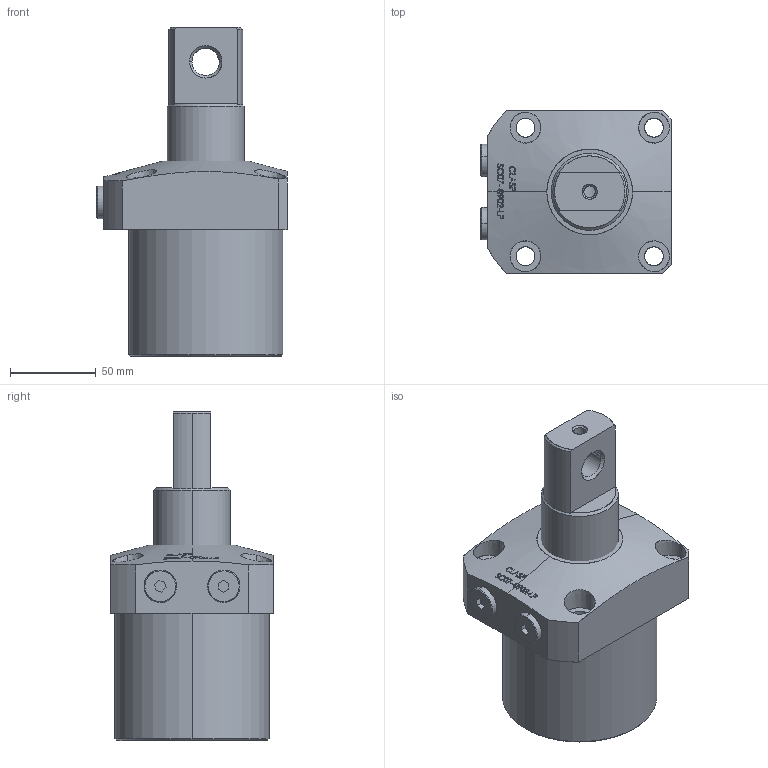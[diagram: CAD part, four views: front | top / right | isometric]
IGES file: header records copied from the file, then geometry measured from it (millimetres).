
Start section: SolidWorks IGES file using analytic representation for surfaces
Global section: file name: D:\karuppas\Clasp\3D model\SWING CYLINDER\Top Mounting swing cylinder-P type\SC07-0902-LP\SC07-0902-LP.IGS; native system: SolidWorks 2017; preprocessor: SolidWorks 2017; author: pc; date: 220708.222927; units: millimetre
Bounding box: 111 x 95 x 192 mm (x, y, z)
Surface area: 78575.2 mm2 (no closed solid volume)
Topology: 0 solids, 0 shells, 322 faces, 5860 edges, 5860 vertices
Faces by surface type: bspline 240, revolution 82
